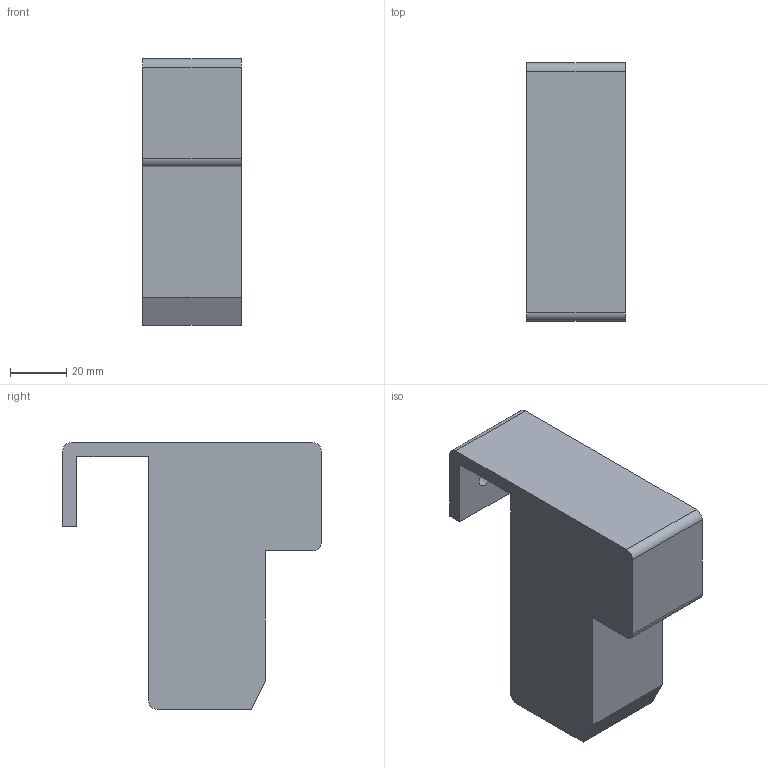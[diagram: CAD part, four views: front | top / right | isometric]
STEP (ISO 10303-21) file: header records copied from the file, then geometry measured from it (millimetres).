
FILE_DESCRIPTION(/* description */ (''),/* implementation_level */ '2;1');
FILE_NAME(/* name */ 'Endstop (R) v1.step',/* time_stamp */ '2024-09-08T15:24:56+02:00',/* author */ (''),/* organization */ (''),/* preprocessor_version */ 'ST-DEVELOPER v20',/* originating_system */ 'Autodesk Translation Framework v13.14.0.145',/* authorisation */ '');
FILE_SCHEMA (('AUTOMOTIVE_DESIGN { 1 0 10303 214 3 1 1 }'));
Length unit declared in the file: millimetre
Products named in the file (1): Chasis
Bounding box: 35 x 92.1 x 95 mm (x, y, z)
Volume: 173071.6 mm3; surface area: 24676.9 mm2
Topology: 1 solids, 1 shells, 27 faces, 69 edges, 46 vertices
Faces by surface type: plane 21, cylinder 6
Full cylindrical faces by diameter (mm): 5 x1, 5.5 x1
Entity records: 859 total; most frequent: CARTESIAN_POINT 143, ORIENTED_EDGE 138, DIRECTION 137, EDGE_CURVE 69, LINE 57, VECTOR 57, VERTEX_POINT 46, AXIS2_PLACEMENT_3D 40
